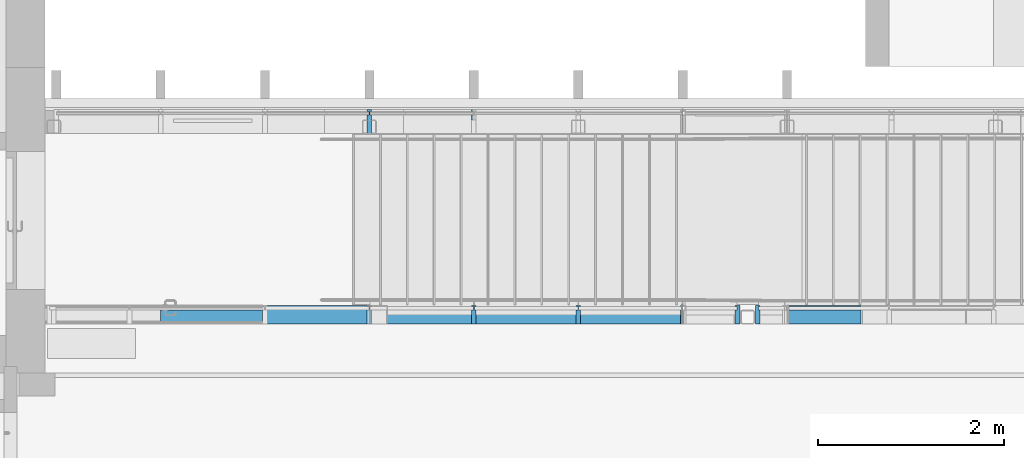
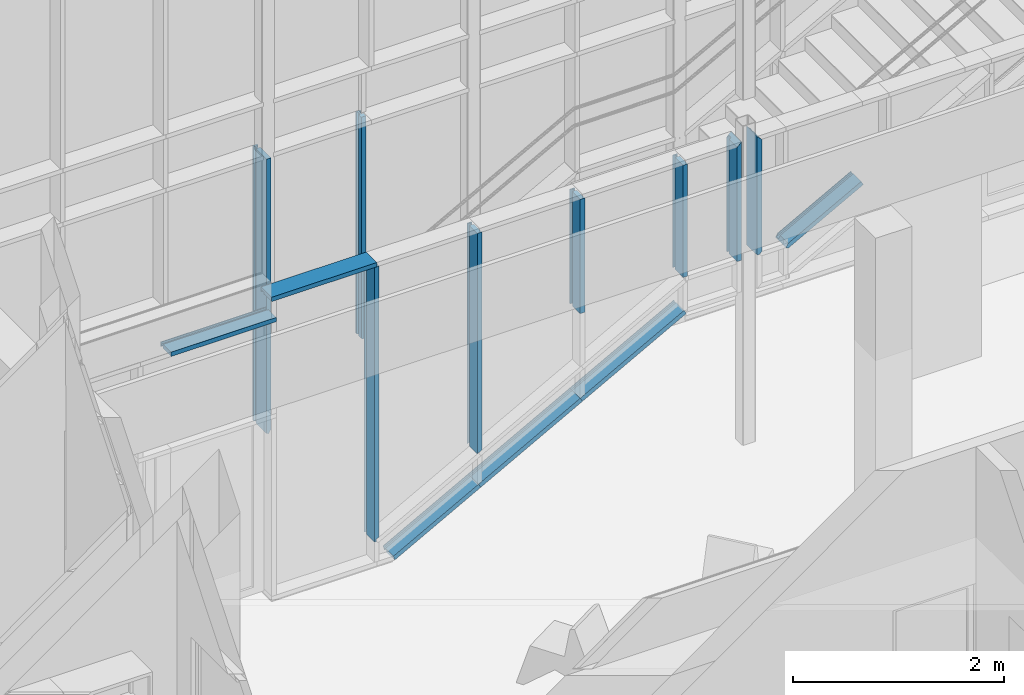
# One storey, part 35 of 301: 14 members, 3 elements without a shape of their own.
"""IFC2X3 building model written with IfcOpenShell, lengths in millimetres."""

from ifc_helpers import new_model, entity, si_unit, converted_unit, derived_unit, money_unit, direction, frame, origin_with_axes, place, context, subcontext, project, spatial, faceted_brep, material, type_object, element, aggregate, save


model = new_model("IFC2X3")

# Units and contexts
model_context = context("Model", 3, precision=0.01, world=origin_with_axes(), true_north=direction((0.0, 1.0)))
body_context = subcontext(model_context, "Body", "Model", "MODEL_VIEW")
ifc_project = project(units=[si_unit("LENGTHUNIT", "METRE", prefix="MILLI"), si_unit("AREAUNIT", "SQUARE_METRE"), si_unit("VOLUMEUNIT", "CUBIC_METRE"), converted_unit("PLANEANGLEUNIT", "DEGREE", entity("IfcPlaneAngleMeasure", 0.0174532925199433), si_unit("PLANEANGLEUNIT", "RADIAN"), dimensions=[0, 0, 0, 0, 0, 0, 0]), money_unit("EUR"), converted_unit("TIMEUNIT", "Year", entity("IfcTimeMeasure", 31557600.0), si_unit("TIMEUNIT", "SECOND"), dimensions=[0, 0, 1, 0, 0, 0, 0]), si_unit("MASSUNIT", "GRAM", prefix="KILO"), si_unit("THERMODYNAMICTEMPERATUREUNIT", "DEGREE_CELSIUS"), si_unit("LUMINOUSINTENSITYUNIT", "LUMEN"), si_unit("ENERGYUNIT", "JOULE", prefix="MEGA"), derived_unit("THERMALCONDUCTANCEUNIT", [(si_unit("POWERUNIT", "WATT"), 1), (si_unit("LENGTHUNIT", "METRE"), -1), (si_unit("THERMODYNAMICTEMPERATUREUNIT", "KELVIN"), -1)]), derived_unit("SPECIFICHEATCAPACITYUNIT", [(si_unit("ENERGYUNIT", "JOULE"), 1), (si_unit("MASSUNIT", "GRAM", prefix="KILO"), -1), (si_unit("THERMODYNAMICTEMPERATUREUNIT", "KELVIN"), -1)]), derived_unit("MASSDENSITYUNIT", [(si_unit("MASSUNIT", "GRAM", prefix="KILO"), 1), (si_unit("VOLUMEUNIT", "CUBIC_METRE"), -1)])], contexts=[model_context])

# Site, building, storey
site_placement = place(None, frame((0.0, 0.0, 8650.0), z_axis=(0.0, 0.0, 1.0), x_axis=(1.0, 0.0, 0.0)))
site = spatial("IfcSite", under=ifc_project, at=site_placement, Name="43301:001:0844", CompositionType="ELEMENT")
building_placement = place(site_placement, origin_with_axes())
building = spatial("IfcBuilding", under=site, at=building_placement, Name="Kuressaare Ametikooli tuulikute mehaanikute õppekorpus", CompositionType="ELEMENT")
storey_placement = place(building_placement, origin_with_axes())
storey = spatial("IfcBuildingStorey", under=building, at=storey_placement, Name="1.korrus", CompositionType="ELEMENT", Elevation=0.0)

# Curtain wall, members
curtain_wall_type = type_object("IfcCurtainWallType", Name="Curtain Wall Type", PredefinedType="NOTDEFINED")
curtain_wall_1_placement = place(storey_placement, frame((116704.6026822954, 28579.57374875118, 35.00000000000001), z_axis=(0.0, 0.0, 1.0), x_axis=(1.0, 0.0, 0.0)))
curtain_wall_1 = element("IfcCurtainWall", 1, at=curtain_wall_1_placement, inside=storey, type_object=curtain_wall_type, Name="KF-1.1")
ifc_material = material(Name="Aluminium")
member_type_1 = type_object("IfcMemberType", Name="Mullion Frame 50 x 260", PredefinedType="NOTDEFINED")
member_1_placement = place(curtain_wall_1_placement, frame((-9562.5, 0.0, 260.093481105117), z_axis=(0.0, 0.0, 1.0), x_axis=(-1.0, 0.0, 0.0)))
member_1 = element("IfcMember", 2, at=member_1_placement, type_object=member_type_1, material=ifc_material, context=body_context, shape_type="Brep", body=[
    faceted_brep([(-4.999999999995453, 19.99999999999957, 3184.906526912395), (-4.999999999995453, -19.99999999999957, 3184.906526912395), (-25.00000000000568, -19.99999999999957, 3184.906526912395), (-25.00000000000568, -39.99999999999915, 3184.906526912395), (25.00000000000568, -39.99999999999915, 3184.906526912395), (25.00000000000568, -19.99999999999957, 3184.906526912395), (4.999999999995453, -19.99999999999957, 3184.906526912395), (4.999999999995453, 19.99999999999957, 3184.906526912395), (25.00000000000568, 19.99999999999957, 3184.906526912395), (25.00000000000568, 219.9999999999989, 3184.906526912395), (-25.00000000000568, 219.9999999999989, 3184.906526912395), (-25.00000000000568, 19.99999999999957, 3184.906526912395), (-4.999999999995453, 19.99999999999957, 8.409676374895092), (-4.999999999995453, -19.99999999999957, 8.409676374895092), (-25.00000000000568, -19.99999999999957, 42.04838187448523), (-25.00000000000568, -39.99999999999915, 42.04838187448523), (25.00000000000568, -39.99999999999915, 14.86383014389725), (0.0, -39.99999999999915, 0.0), (25.00000000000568, -19.99999999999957, 14.86383014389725), (4.999999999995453, -19.99999999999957, 2.972766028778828), (4.999999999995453, 19.99999999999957, 2.972766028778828), (25.00000000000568, 19.99999999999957, 14.86383014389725), (25.00000000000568, 219.9999999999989, 14.86383014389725), (-25.00000000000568, 219.9999999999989, 42.04838187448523), (0.0, 219.9999999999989, 0.0), (-25.00000000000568, 19.99999999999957, 42.04838187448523)], [[[0, 1, 2, 3, 4, 5, 6, 7, 8, 9, 10, 11]], [[0, 12, 13, 1]], [[1, 13, 14, 2]], [[14, 15, 3, 2]], [[16, 4, 3, 15, 17]], [[18, 5, 4, 16]], [[5, 18, 19, 6]], [[7, 6, 19, 20]], [[8, 7, 20, 21]], [[8, 21, 22, 9]], [[23, 10, 9, 22, 24]], [[11, 10, 23, 25]], [[11, 25, 12, 0]], [[13, 12, 25, 23, 24, 17, 15, 14]], [[16, 17, 24, 22, 21, 20, 19, 18]]]),
])
member_type_2 = type_object("IfcMemberType", Name="50 x 110", PredefinedType="NOTDEFINED")
member_2_placement = place(curtain_wall_1_placement, frame((-8437.5, 0.0, 871.7458982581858), z_axis=(0.0, 0.0, 1.0), x_axis=(-1.0, 0.0, 0.0)))
member_2 = element("IfcMember", 3, at=member_2_placement, type_object=member_type_2, material=ifc_material, context=body_context, shape_type="Brep", body=[
    faceted_brep([(-4.999999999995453, 19.99999999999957, 2573.254109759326), (-4.999999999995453, -19.99999999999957, 2573.254109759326), (-25.00000000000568, -19.99999999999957, 2573.254109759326), (-25.00000000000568, -39.99999999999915, 2573.254109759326), (25.00000000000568, -39.99999999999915, 2573.254109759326), (25.00000000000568, -19.99999999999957, 2573.254109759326), (4.999999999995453, -19.99999999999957, 2573.254109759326), (4.999999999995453, 19.99999999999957, 2573.254109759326), (25.00000000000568, 19.99999999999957, 2573.254109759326), (25.00000000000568, 70.00000000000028, 2573.254109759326), (-25.00000000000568, 70.00000000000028, 2573.254109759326), (-25.00000000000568, 19.99999999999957, 2573.254109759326), (-4.999999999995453, 19.99999999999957, 8.40967649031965), (-4.999999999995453, -19.99999999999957, 8.40967649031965), (-25.00000000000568, -19.99999999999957, 42.04838245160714), (-25.00000000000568, -39.99999999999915, 42.04838245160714), (25.00000000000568, -39.99999999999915, 14.86383000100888), (0.0, -39.99999999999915, 0.0), (25.00000000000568, -19.99999999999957, 14.86383000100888), (4.999999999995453, -19.99999999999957, 2.972766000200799), (4.999999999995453, 19.99999999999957, 2.972766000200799), (25.00000000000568, 19.99999999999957, 14.86383000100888), (25.00000000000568, 70.00000000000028, 14.86383000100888), (-25.00000000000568, 70.00000000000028, 42.04838245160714), (0.0, 70.00000000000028, 0.0), (-25.00000000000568, 19.99999999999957, 42.04838245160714)], [[[0, 1, 2, 3, 4, 5, 6, 7, 8, 9, 10, 11]], [[0, 12, 13, 1]], [[1, 13, 14, 2]], [[14, 15, 3, 2]], [[16, 4, 3, 15, 17]], [[18, 5, 4, 16]], [[5, 18, 19, 6]], [[7, 6, 19, 20]], [[8, 7, 20, 21]], [[8, 21, 22, 9]], [[23, 10, 9, 22, 24]], [[11, 10, 23, 25]], [[11, 25, 12, 0]], [[13, 12, 25, 23, 24, 17, 15, 14]], [[16, 17, 24, 22, 21, 20, 19, 18]]]),
])
aggregate(curtain_wall_1, [member_1, member_2])

curtain_wall_2_placement = place(storey_placement, frame((105155.4360221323, 26479.57374875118, 34.99996632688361), z_axis=(0.0, 0.0, 1.0), x_axis=(1.0, 0.0, 0.0)))
curtain_wall_2 = element("IfcCurtainWall", 4, at=curtain_wall_2_placement, inside=storey, type_object=curtain_wall_type, Name="SKF-1.1,EI60")
member_type_3 = type_object("IfcMemberType", Name="Boundary Frame 50 x 200", PredefinedType="NOTDEFINED")
member_3_placement = place(curtain_wall_2_placement, frame((1986.66666016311, 0.0, 3459.999957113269), z_axis=(-1.0, 0.0, 0.0), x_axis=(0.0, 0.0, -1.0)))
member_3 = element("IfcMember", 5, at=member_3_placement, type_object=member_type_3, material=ifc_material, context=body_context, shape_type="Brep", body=[
    faceted_brep([(4.999999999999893, 19.99999999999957, 1150.000000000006), (24.99999999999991, 19.99999999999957, 1150.000000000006), (24.99999999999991, 170.0000000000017, 1150.000000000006), (-24.99999999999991, 170.0000000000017, 1150.000000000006), (-24.99999999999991, -30.00000000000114, 1150.000000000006), (24.99999999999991, -30.00000000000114, 1150.000000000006), (24.99999999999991, -19.99999999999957, 1150.000000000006), (4.999999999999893, -19.99999999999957, 1150.000000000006), (4.999999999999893, 19.99999999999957, 0.0), (24.99999999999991, 19.99999999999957, 0.0), (24.99999999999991, 170.0000000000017, 0.0), (-24.99999999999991, 170.0000000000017, 0.0), (-24.99999999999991, -30.00000000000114, 0.0), (24.99999999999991, -30.00000000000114, 0.0), (24.99999999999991, -19.99999999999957, 0.0), (4.999999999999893, -19.99999999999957, 0.0)], [[[0, 1, 2, 3, 4, 5, 6, 7]], [[0, 8, 9, 1]], [[9, 10, 2, 1]], [[10, 11, 3, 2]], [[11, 12, 4, 3]], [[12, 13, 5, 4]], [[6, 5, 13, 14]], [[14, 15, 7, 6]], [[7, 15, 8, 0]], [[8, 15, 14, 13, 12, 11, 10, 9]]]),
])
member_4_placement = place(curtain_wall_2_placement, frame((3111.66666016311, 0.0, 509.1739026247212), z_axis=(0.8785182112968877, 0.0, 0.4777088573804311), x_axis=(-0.4777088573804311, 0.0, 0.8785182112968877)))
member_4 = element("IfcMember", 6, at=member_4_placement, type_object=member_type_3, material=ifc_material, context=body_context, shape_type="Brep", body=[
    faceted_brep([(-4.999999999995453, 19.99999999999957, 1279.776559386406), (-4.999999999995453, -19.99999999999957, 1279.776559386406), (-24.99999999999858, -19.99999999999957, 1279.776559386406), (-24.99999999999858, -30.00000000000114, 1279.776559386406), (24.99999999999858, -30.00000000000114, 1279.77655938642), (24.99999999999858, -19.99999999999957, 1279.77655938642), (5.000000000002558, -19.99999999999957, 1279.77655938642), (5.000000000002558, 19.99999999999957, 1279.77655938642), (24.99999999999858, 19.99999999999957, 1279.77655938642), (24.99999999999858, 170.0000000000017, 1279.77655938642), (-24.99999999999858, 170.0000000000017, 1279.776559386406), (-24.99999999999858, 19.99999999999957, 1279.776559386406), (-4.999999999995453, 19.99999999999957, -5.332765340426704e-07), (-4.999999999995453, -19.99999999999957, -5.332765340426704e-07), (-24.99999999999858, -19.99999999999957, -5.332765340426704e-07), (-24.99999999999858, -30.00000000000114, -5.332765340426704e-07), (25.00000000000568, -30.00000000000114, -5.332765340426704e-07), (25.00000000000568, -19.99999999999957, -5.332765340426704e-07), (5.000000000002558, -19.99999999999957, -5.332765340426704e-07), (5.000000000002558, 19.99999999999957, -5.332765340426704e-07), (25.00000000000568, 19.99999999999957, -5.332765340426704e-07), (25.00000000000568, 170.0000000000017, -5.332765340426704e-07), (-24.99999999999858, 170.0000000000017, -5.332765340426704e-07), (-24.99999999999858, 19.99999999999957, -5.332765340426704e-07)], [[[0, 1, 2, 3, 4, 5, 6, 7, 8, 9, 10, 11]], [[0, 12, 13, 1]], [[1, 13, 14, 2]], [[14, 15, 3, 2]], [[3, 15, 16, 4]], [[17, 5, 4, 16]], [[5, 17, 18, 6]], [[7, 6, 18, 19]], [[8, 7, 19, 20]], [[8, 20, 21, 9]], [[9, 21, 22, 10]], [[11, 10, 22, 23]], [[11, 23, 12, 0]], [[13, 12, 23, 22, 21, 20, 19, 18, 17, 16, 15, 14]]]),
])
member_5_placement = place(curtain_wall_2_placement, frame((2175.283512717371, 0.0, 0.0), z_axis=(0.8785182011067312, 0.0, 0.4777088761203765), x_axis=(-0.4777088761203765, 0.0, 0.8785182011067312)))
member_5 = element("IfcMember", 7, at=member_5_placement, type_object=member_type_3, material=ifc_material, context=body_context, shape_type="Brep", body=[
    faceted_brep([(-4.999999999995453, 19.99999999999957, 1065.866531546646), (-4.999999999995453, -19.99999999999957, 1065.866531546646), (-25.00000000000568, -19.99999999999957, 1065.866531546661), (-25.00000000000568, -30.00000000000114, 1065.866531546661), (24.99999999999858, -30.00000000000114, 1065.866531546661), (24.99999999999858, -19.99999999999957, 1065.866531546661), (5.000000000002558, -19.99999999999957, 1065.866531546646), (5.000000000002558, 19.99999999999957, 1065.866531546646), (24.99999999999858, 19.99999999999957, 1065.866531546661), (24.99999999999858, 170.0000000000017, 1065.866531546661), (-25.00000000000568, 170.0000000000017, 1065.866531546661), (-25.00000000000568, 19.99999999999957, 1065.866531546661), (-5.000000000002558, 19.99999999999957, -1.271504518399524), (-5.000000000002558, -19.99999999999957, -1.271504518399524), (-24.99999999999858, -19.99999999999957, -6.357522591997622), (-24.99999999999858, -30.00000000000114, -6.357522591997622), (24.99999999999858, -30.00000000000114, 6.357522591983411), (24.99999999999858, -19.99999999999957, 6.357522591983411), (5.000000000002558, -19.99999999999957, 1.271504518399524), (5.000000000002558, 19.99999999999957, 1.271504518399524), (24.99999999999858, 19.99999999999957, 6.357522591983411), (24.99999999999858, 170.0000000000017, 6.357522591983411), (-24.99999999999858, 170.0000000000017, -6.357522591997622), (-24.99999999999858, 19.99999999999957, -6.357522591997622)], [[[0, 1, 2, 3, 4, 5, 6, 7, 8, 9, 10, 11]], [[0, 12, 13, 1]], [[1, 13, 14, 2]], [[14, 15, 3, 2]], [[4, 3, 15, 16]], [[17, 5, 4, 16]], [[5, 17, 18, 6]], [[7, 6, 18, 19]], [[8, 7, 19, 20]], [[8, 20, 21, 9]], [[10, 9, 21, 22]], [[11, 10, 22, 23]], [[11, 23, 12, 0]], [[13, 12, 23, 22, 21, 20, 19, 18, 17, 16, 15, 14]]]),
])
member_6_placement = place(curtain_wall_2_placement, frame((4236.66666016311, 0.0, 1120.911323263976), z_axis=(0.8785182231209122, 0.0, 0.4777088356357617), x_axis=(-0.4777088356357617, 0.0, 0.8785182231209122)))
member_6 = element("IfcMember", 8, at=member_6_placement, type_object=member_type_3, material=ifc_material, context=body_context, shape_type="Brep", body=[
    faceted_brep([(-5.000000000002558, 19.99999999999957, 1279.460205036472), (-5.000000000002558, -19.99999999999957, 1279.460205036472), (-24.99999999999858, -19.99999999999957, 1279.460205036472), (-24.99999999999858, -30.00000000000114, 1279.460205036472), (24.99999999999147, -30.00000000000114, 1279.460205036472), (24.99999999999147, -19.99999999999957, 1279.460205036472), (4.999999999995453, -19.99999999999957, 1279.460205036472), (4.999999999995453, 19.99999999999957, 1279.460205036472), (24.99999999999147, 19.99999999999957, 1279.460205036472), (24.99999999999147, 170.0000000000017, 1279.460205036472), (-24.99999999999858, 170.0000000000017, 1279.460205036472), (-24.99999999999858, 19.99999999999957, 1279.460205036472), (-5.000000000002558, 19.99999999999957, -14.86284378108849), (-5.000000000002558, -19.99999999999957, -14.86284378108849), (-24.99999999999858, -19.99999999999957, -14.8628437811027), (-24.99999999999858, -30.00000000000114, -14.8628437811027), (24.99999999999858, -30.00000000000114, -14.86284378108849), (24.99999999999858, -19.99999999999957, -14.86284378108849), (5.000000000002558, -19.99999999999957, -14.8628437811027), (5.000000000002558, 19.99999999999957, -14.8628437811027), (24.99999999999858, 19.99999999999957, -14.86284378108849), (24.99999999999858, 170.0000000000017, -14.86284378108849), (-24.99999999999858, 170.0000000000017, -14.8628437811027), (-24.99999999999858, 19.99999999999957, -14.8628437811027)], [[[0, 1, 2, 3, 4, 5, 6, 7, 8, 9, 10, 11]], [[0, 12, 13, 1]], [[1, 13, 14, 2]], [[14, 15, 3, 2]], [[3, 15, 16, 4]], [[17, 5, 4, 16]], [[5, 17, 18, 6]], [[7, 6, 18, 19]], [[8, 7, 19, 20]], [[8, 20, 21, 9]], [[9, 21, 22, 10]], [[11, 10, 22, 23]], [[11, 23, 12, 0]], [[13, 12, 23, 22, 21, 20, 19, 18, 17, 16, 15, 14]]]),
])
member_7_placement = place(curtain_wall_2_placement, frame((5952.513291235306, 0.0, 2113.548871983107), z_axis=(0.0, 0.0, 1.0), x_axis=(-1.0, 0.0, 0.0)))
member_7 = element("IfcMember", 9, at=member_7_placement, type_object=member_type_3, material=ifc_material, context=body_context, shape_type="Brep", body=[
    faceted_brep([(4.999999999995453, 19.99999999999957, 1341.451141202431), (25.00000000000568, 19.99999999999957, 1321.4511392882), (25.00000000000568, 170.0000000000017, 1321.4511392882), (-25.00000000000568, 170.0000000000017, 1371.451144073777), (-25.00000000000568, -30.00000000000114, 1371.451144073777), (25.00000000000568, -30.00000000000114, 1321.4511392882), (25.00000000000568, -19.99999999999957, 1321.4511392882), (4.999999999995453, -19.99999999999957, 1341.451141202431), (4.999999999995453, 19.99999999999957, 0.0), (25.00000000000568, 19.99999999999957, 0.0), (25.00000000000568, 170.0000000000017, 0.0), (-25.00000000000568, 170.0000000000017, 0.0), (-25.00000000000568, -30.00000000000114, 0.0), (25.00000000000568, -30.00000000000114, 0.0), (25.00000000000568, -19.99999999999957, 0.0), (4.999999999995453, -19.99999999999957, 0.0)], [[[0, 1, 2, 3, 4, 5, 6, 7]], [[0, 8, 9, 1]], [[9, 10, 2, 1]], [[10, 11, 3, 2]], [[11, 12, 4, 3]], [[12, 13, 5, 4]], [[6, 5, 13, 14]], [[14, 15, 7, 6]], [[7, 15, 8, 0]], [[8, 15, 14, 13, 12, 11, 10, 9]]]),
])
member_8_placement = place(curtain_wall_2_placement, frame((861.6666601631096, 0.0, 3209.99994650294), z_axis=(-1.0, 0.0, 0.0), x_axis=(0.0, 0.0, -1.0)))
member_8 = element("IfcMember", 10, at=member_8_placement, type_object=member_type_3, material=ifc_material, context=body_context, shape_type="Brep", body=[
    faceted_brep([(-4.999999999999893, 19.99999999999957, 1125.0), (-4.999999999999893, -19.99999999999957, 1125.0), (-24.99999999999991, -19.99999999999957, 1125.0), (-24.99999999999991, -30.00000000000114, 1125.0), (24.99999999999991, -30.00000000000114, 1125.0), (24.99999999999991, -19.99999999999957, 1125.0), (4.999999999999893, -19.99999999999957, 1125.0), (4.999999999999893, 19.99999999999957, 1125.0), (24.99999999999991, 19.99999999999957, 1125.0), (24.99999999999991, 170.0000000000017, 1125.0), (-24.99999999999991, 170.0000000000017, 1125.0), (-24.99999999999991, 19.99999999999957, 1125.0), (-4.999999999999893, 19.99999999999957, -25.00000000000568), (-4.999999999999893, -19.99999999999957, -25.00000000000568), (-24.99999999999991, -19.99999999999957, -25.00000000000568), (-24.99999999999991, -30.00000000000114, -25.00000000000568), (24.99999999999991, -30.00000000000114, -25.00000000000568), (24.99999999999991, -19.99999999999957, -25.00000000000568), (4.999999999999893, -19.99999999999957, -25.00000000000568), (4.999999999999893, 19.99999999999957, -25.00000000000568), (24.99999999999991, 19.99999999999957, -25.00000000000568), (24.99999999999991, 170.0000000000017, -25.00000000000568), (-24.99999999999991, 170.0000000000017, -25.00000000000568), (-24.99999999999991, 19.99999999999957, -25.00000000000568)], [[[0, 1, 2, 3, 4, 5, 6, 7, 8, 9, 10, 11]], [[0, 12, 13, 1]], [[1, 13, 14, 2]], [[14, 15, 3, 2]], [[3, 15, 16, 4]], [[17, 5, 4, 16]], [[5, 17, 18, 6]], [[7, 6, 18, 19]], [[8, 7, 19, 20]], [[8, 20, 21, 9]], [[9, 21, 22, 10]], [[11, 10, 22, 23]], [[11, 23, 12, 0]], [[13, 12, 23, 22, 21, 20, 19, 18, 17, 16, 15, 14]]]),
])

# Curtain wall, member
curtain_wall_3_placement = place(storey_placement, frame((111472.5258007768, 26479.57374875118, 1595.348937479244), z_axis=(0.0, 0.0, 1.0), x_axis=(1.0, 0.0, 0.0)))
curtain_wall_3 = element("IfcCurtainWall", 11, at=curtain_wall_3_placement, inside=storey, type_object=curtain_wall_type, Name="SKF-1.2,EI60")
member_9_placement = place(curtain_wall_3_placement, frame((-144.5766503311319, 0.0, 552.4643932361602), z_axis=(0.0, 0.0, 1.0), x_axis=(-1.0, 0.0, 0.0)))
member_9 = element("IfcMember", 12, at=member_9_placement, type_object=member_type_3, material=ifc_material, context=body_context, shape_type="Brep", body=[
    faceted_brep([(-4.999999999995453, 19.99999999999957, 1342.535643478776), (-4.999999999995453, -19.99999999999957, 1342.535643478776), (-25.00000000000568, -19.99999999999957, 1322.535643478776), (-25.00000000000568, -30.00000000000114, 1322.535643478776), (25.00000000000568, -30.00000000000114, 1372.535643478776), (25.00000000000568, 170.0000000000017, 1372.535643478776), (-25.00000000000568, 170.0000000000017, 1322.535643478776), (-25.00000000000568, 19.99999999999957, 1322.535643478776), (-4.999999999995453, 19.99999999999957, 4.999999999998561), (-4.999999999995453, -19.99999999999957, 4.999999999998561), (-25.00000000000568, -19.99999999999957, 24.99999999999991), (-25.00000000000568, -30.00000000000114, 24.99999999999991), (25.00000000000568, -30.00000000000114, 0.0), (0.0, -30.00000000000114, 0.0), (25.00000000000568, 170.0000000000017, 0.0), (0.0, 170.0000000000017, 0.0), (-25.00000000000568, 170.0000000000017, 24.99999999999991), (-25.00000000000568, 19.99999999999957, 24.99999999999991)], [[[0, 1, 2, 3, 4, 5, 6, 7]], [[1, 0, 8, 9]], [[10, 2, 1, 9]], [[2, 10, 11, 3]], [[12, 4, 3, 11, 13]], [[5, 4, 12, 14]], [[6, 5, 14, 15, 16]], [[17, 7, 6, 16]], [[0, 7, 17, 8]], [[8, 17, 16, 15, 13, 11, 10, 9]], [[15, 14, 12, 13]]]),
])

# Member
member_type_4 = type_object("IfcMemberType", Name="Mullion Frame 50 x 200", PredefinedType="NOTDEFINED")
member_10_placement = place(curtain_wall_2_placement, frame((1986.66666016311, 0.0, 259.902665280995), z_axis=(0.0, 0.0, 1.0), x_axis=(-1.0, 0.0, 0.0)))
member_10 = element("IfcMember", 13, at=member_10_placement, type_object=member_type_4, material=ifc_material, context=body_context, shape_type="Brep", body=[
    faceted_brep([(-4.999999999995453, 19.99999999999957, 3175.097291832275), (-4.999999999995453, -19.99999999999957, 3175.097291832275), (-25.00000000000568, -19.99999999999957, 3175.097291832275), (-25.00000000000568, -30.00000000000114, 3175.097291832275), (25.00000000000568, -30.00000000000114, 3175.097291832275), (25.00000000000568, -19.99999999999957, 3175.097291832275), (4.999999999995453, -19.99999999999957, 3175.097291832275), (4.999999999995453, 19.99999999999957, 3175.097291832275), (25.00000000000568, 19.99999999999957, 3175.097291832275), (25.00000000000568, 170.0000000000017, 3175.097291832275), (-25.00000000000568, 170.0000000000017, 3175.097291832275), (-25.00000000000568, 19.99999999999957, 3175.097291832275), (-4.999999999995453, 19.99999999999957, 31.17584069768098), (-4.999999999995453, -19.99999999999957, 31.17584069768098), (-25.00000000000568, -19.99999999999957, 42.05117197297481), (-25.00000000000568, -30.00000000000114, 42.05117197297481), (11.94272088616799, -30.00000000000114, 21.96295558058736), (0.0, -30.00000000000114, 0.0), (25.00000000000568, -30.00000000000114, 0.0), (25.00000000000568, -19.99999999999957, 0.0), (11.94272088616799, -19.99999999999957, 21.96295558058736), (4.999999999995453, -19.99999999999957, 25.7381750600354), (4.999999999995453, -19.99999999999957, 0.0), (4.999999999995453, -19.99999999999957, 9.195122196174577), (4.999999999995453, 19.99999999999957, 25.7381750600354), (4.999999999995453, 19.99999999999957, 9.195122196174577), (4.999999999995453, 19.99999999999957, 0.0), (25.00000000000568, 19.99999999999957, 0.0), (11.94272088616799, 19.99999999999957, 21.96295558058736), (25.00000000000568, 170.0000000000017, 0.0), (11.94272088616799, 170.0000000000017, 21.96295558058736), (-25.00000000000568, 170.0000000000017, 42.05117197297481), (0.0, 170.0000000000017, 0.0), (-25.00000000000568, 19.99999999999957, 42.05117197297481)], [[[0, 1, 2, 3, 4, 5, 6, 7, 8, 9, 10, 11]], [[0, 12, 13, 1]], [[1, 13, 14, 2]], [[14, 15, 3, 2]], [[16, 17, 18, 4, 3, 15]], [[19, 5, 4, 18]], [[20, 21, 6, 5, 19, 22, 23]], [[7, 6, 21, 24]], [[25, 26, 27, 8, 7, 24, 28]], [[8, 27, 29, 9]], [[30, 31, 10, 9, 29, 32]], [[11, 10, 31, 33]], [[11, 33, 12, 0]], [[13, 12, 33, 31, 30, 28, 24, 21, 20, 16, 15, 14]], [[32, 17, 16, 20, 23, 25, 28, 30]], [[18, 17, 32, 29, 27, 26, 22, 19]], [[25, 23, 22, 26]]]),
])

member_11_placement = place(curtain_wall_2_placement, frame((3111.66666016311, 0.0, 871.6400495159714), z_axis=(0.0, 0.0, 1.0), x_axis=(-1.0, 0.0, 0.0)))
member_11 = element("IfcMember", 14, at=member_11_placement, type_object=member_type_4, material=ifc_material, context=body_context, shape_type="Brep", body=[
    faceted_brep([(-4.999999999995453, 19.99999999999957, 2563.359907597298), (-4.999999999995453, -19.99999999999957, 2563.359907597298), (-25.00000000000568, -19.99999999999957, 2563.359907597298), (-25.00000000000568, -30.00000000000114, 2563.359907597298), (25.00000000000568, -30.00000000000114, 2563.359907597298), (25.00000000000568, -19.99999999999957, 2563.359907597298), (4.999999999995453, -19.99999999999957, 2563.359907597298), (4.999999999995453, 19.99999999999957, 2563.359907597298), (25.00000000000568, 19.99999999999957, 2563.359907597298), (25.00000000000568, 170.0000000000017, 2563.359907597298), (-25.00000000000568, 170.0000000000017, 2563.359907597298), (-25.00000000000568, 19.99999999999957, 2563.359907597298), (-4.999999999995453, 19.99999999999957, 31.17584069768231), (-4.999999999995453, -19.99999999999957, 31.17584069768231), (-25.00000000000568, -19.99999999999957, 42.0511719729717), (-25.00000000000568, -30.00000000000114, 42.0511719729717), (25.00000000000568, -30.00000000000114, 14.86284378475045), (25.00000000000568, -19.99999999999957, 14.86284378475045), (4.999999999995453, -19.99999999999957, 25.7381750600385), (4.999999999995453, 19.99999999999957, 25.7381750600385), (25.00000000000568, 19.99999999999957, 14.86284378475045), (25.00000000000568, 170.0000000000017, 14.86284378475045), (-25.00000000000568, 170.0000000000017, 42.0511719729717), (-25.00000000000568, 19.99999999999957, 42.0511719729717)], [[[0, 1, 2, 3, 4, 5, 6, 7, 8, 9, 10, 11]], [[0, 12, 13, 1]], [[1, 13, 14, 2]], [[14, 15, 3, 2]], [[4, 3, 15, 16]], [[17, 5, 4, 16]], [[5, 17, 18, 6]], [[7, 6, 18, 19]], [[8, 7, 19, 20]], [[8, 20, 21, 9]], [[10, 9, 21, 22]], [[11, 10, 22, 23]], [[11, 23, 12, 0]], [[13, 12, 23, 22, 21, 20, 19, 18, 17, 16, 15, 14]]]),
])

member_12_placement = place(curtain_wall_2_placement, frame((4236.66666016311, 0.0, 2113.552700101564), z_axis=(0.0, 0.0, 1.0), x_axis=(-1.0, 0.0, 0.0)))
member_12 = element("IfcMember", 15, at=member_12_placement, type_object=member_type_4, material=ifc_material, context=body_context, shape_type="Brep", body=[
    faceted_brep([(-4.999999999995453, 19.99999999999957, 1321.447257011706), (-4.999999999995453, -19.99999999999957, 1321.447257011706), (-25.00000000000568, -19.99999999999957, 1321.447257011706), (-25.00000000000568, -30.00000000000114, 1321.447257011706), (25.00000000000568, -30.00000000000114, 1321.447257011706), (25.00000000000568, -19.99999999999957, 1321.447257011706), (4.999999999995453, -19.99999999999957, 1321.447257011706), (4.999999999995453, 19.99999999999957, 1321.447257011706), (25.00000000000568, 19.99999999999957, 1321.447257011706), (25.00000000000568, 170.0000000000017, 1321.447257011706), (-25.00000000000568, 170.0000000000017, 1321.447257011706), (-25.00000000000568, 19.99999999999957, 1321.447257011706), (-4.999999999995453, 19.99999999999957, 0.0), (-4.999999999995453, -19.99999999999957, 0.0), (-25.00000000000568, -19.99999999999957, 0.0), (-25.00000000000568, -30.00000000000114, 0.0), (25.00000000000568, -30.00000000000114, 0.0), (25.00000000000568, -19.99999999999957, 0.0), (4.999999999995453, -19.99999999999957, 0.0), (4.999999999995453, 19.99999999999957, 0.0), (25.00000000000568, 19.99999999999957, 0.0), (25.00000000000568, 170.0000000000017, 0.0), (-25.00000000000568, 170.0000000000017, 0.0), (-25.00000000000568, 19.99999999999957, 0.0)], [[[0, 1, 2, 3, 4, 5, 6, 7, 8, 9, 10, 11]], [[0, 12, 13, 1]], [[1, 13, 14, 2]], [[14, 15, 3, 2]], [[3, 15, 16, 4]], [[17, 5, 4, 16]], [[5, 17, 18, 6]], [[7, 6, 18, 19]], [[8, 7, 19, 20]], [[8, 20, 21, 9]], [[9, 21, 22, 10]], [[11, 10, 22, 23]], [[11, 23, 12, 0]], [[13, 12, 23, 22, 21, 20, 19, 18, 17, 16, 15, 14]]]),
])

member_13_placement = place(curtain_wall_2_placement, frame((5361.66666016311, 0.0, 2113.548871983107), z_axis=(0.0, 0.0, 1.0), x_axis=(-1.0, 0.0, 0.0)))
member_13 = element("IfcMember", 16, at=member_13_placement, type_object=member_type_4, material=ifc_material, context=body_context, shape_type="Brep", body=[
    faceted_brep([(-4.999999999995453, 19.99999999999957, 1321.451083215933), (-4.999999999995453, -19.99999999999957, 1321.451087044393), (-25.00000000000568, -19.99999999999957, 1321.451087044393), (-25.00000000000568, -30.00000000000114, 1321.451088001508), (25.00000000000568, -30.00000000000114, 1321.451088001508), (25.00000000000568, -19.99999999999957, 1321.451087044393), (4.999999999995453, -19.99999999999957, 1321.451087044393), (4.999999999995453, 19.99999999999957, 1321.451083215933), (25.00000000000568, 19.99999999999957, 1321.451083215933), (25.00000000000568, 170.0000000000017, 1321.451068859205), (-25.00000000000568, 170.0000000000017, 1321.451068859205), (-25.00000000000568, 19.99999999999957, 1321.451083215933), (-4.999999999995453, 19.99999999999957, 25.00000000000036), (-4.999999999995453, -19.99999999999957, 24.99999999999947), (-25.00000000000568, -19.99999999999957, 24.99999999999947), (-25.00000000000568, -30.00000000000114, 24.99999999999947), (25.00000000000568, -30.00000000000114, 24.99999999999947), (25.00000000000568, -19.99999999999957, 24.99999999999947), (4.999999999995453, -19.99999999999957, 24.99999999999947), (4.999999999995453, 19.99999999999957, 25.00000000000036), (25.00000000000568, 19.99999999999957, 25.00000000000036), (25.00000000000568, 170.0000000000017, 25.00000000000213), (-25.00000000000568, 170.0000000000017, 25.00000000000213), (-25.00000000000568, 19.99999999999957, 25.00000000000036)], [[[0, 1, 2, 3, 4, 5, 6, 7, 8, 9, 10, 11]], [[0, 12, 13, 1]], [[1, 13, 14, 2]], [[14, 15, 3, 2]], [[4, 3, 15, 16]], [[17, 5, 4, 16]], [[5, 17, 18, 6]], [[7, 6, 18, 19]], [[8, 7, 19, 20]], [[8, 20, 21, 9]], [[10, 9, 21, 22]], [[11, 10, 22, 23]], [[11, 23, 12, 0]], [[13, 12, 23, 22, 21, 20, 19, 18, 17, 16, 15, 14]]]),
])

aggregate(curtain_wall_2, [member_10, member_3, member_11, member_12, member_13, member_4, member_5, member_6, member_7, member_8])

member_14_placement = place(curtain_wall_3_placement, frame((980.4233496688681, 0.0, 983.8361997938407), z_axis=(-0.8785192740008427, 0.0, -0.4777069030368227), x_axis=(0.4777069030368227, 0.0, -0.8785192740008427)))
member_14 = element("IfcMember", 17, at=member_14_placement, type_object=member_type_4, material=ifc_material, context=body_context, shape_type="Brep", body=[
    faceted_brep([(-5.000000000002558, 19.99999999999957, 943.0165000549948), (-5.000000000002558, -19.99999999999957, 943.0165000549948), (-24.99999999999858, -19.99999999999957, 909.3756467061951), (-24.99999999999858, -30.00000000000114, 909.3756467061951), (0.0, -30.00000000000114, 951.4267133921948), (0.0, 170.0000000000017, 951.4267133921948), (-24.99999999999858, 170.0000000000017, 909.3756467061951), (-24.99999999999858, 19.99999999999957, 909.3756467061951), (-5.000000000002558, 19.99999999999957, -1.877708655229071e-06), (-5.000000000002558, -19.99999999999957, -1.877708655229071e-06), (-24.99999999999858, -19.99999999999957, -1.877722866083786e-06), (-24.99999999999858, -30.00000000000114, -1.877722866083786e-06), (24.99999999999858, -30.00000000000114, -1.877708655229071e-06), (25.00000000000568, -30.00000000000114, 936.5638323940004), (25.00000000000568, -19.99999999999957, 936.5638323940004), (5.000000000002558, -19.99999999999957, 948.4541371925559), (5.000000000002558, 19.99999999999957, 948.4541371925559), (25.00000000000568, 19.99999999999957, 936.5638323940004), (25.00000000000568, 170.0000000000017, 936.5638323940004), (24.99999999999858, 170.0000000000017, -1.877708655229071e-06), (-24.99999999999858, 170.0000000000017, -1.877722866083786e-06), (-24.99999999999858, 19.99999999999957, -1.877722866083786e-06), (24.99999999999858, 19.99999999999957, -1.877708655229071e-06), (4.999999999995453, 19.99999999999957, -1.877708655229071e-06), (4.999999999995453, -19.99999999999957, -1.877708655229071e-06), (24.99999999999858, -19.99999999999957, -1.877708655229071e-06)], [[[0, 1, 2, 3, 4, 5, 6, 7]], [[0, 8, 9, 1]], [[1, 9, 10, 2]], [[10, 11, 3, 2]], [[11, 12, 13, 4, 3]], [[5, 4, 13, 14, 15, 16, 17, 18]], [[18, 19, 20, 6, 5]], [[7, 6, 20, 21]], [[7, 21, 8, 0]], [[9, 8, 21, 20, 19, 22, 23, 24, 25, 12, 11, 10]], [[25, 14, 13, 12]], [[14, 25, 24, 15]], [[16, 15, 24, 23]], [[17, 16, 23, 22]], [[17, 22, 19, 18]]]),
])

aggregate(curtain_wall_3, [member_9, member_14])

save(model, "model.ifc")
